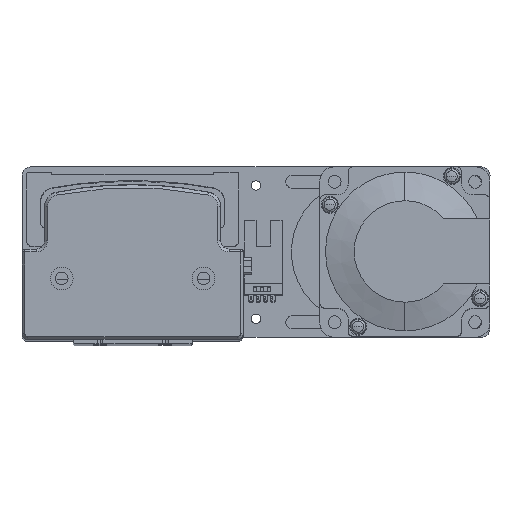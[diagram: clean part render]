
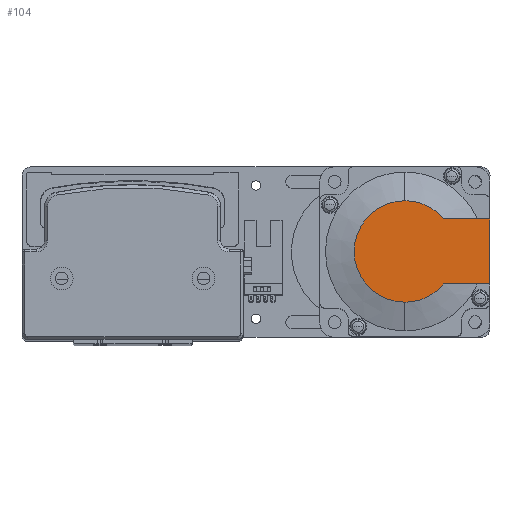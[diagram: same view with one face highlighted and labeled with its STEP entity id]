
A CAD part, top view. The second image highlights one B-rep face of the part: STEP entity #104.
In plain terms, the highlighted planar face has unit normal (0, 0, 1) as drawn and (-1, 0, 0) by its records, which use the part's own axes.
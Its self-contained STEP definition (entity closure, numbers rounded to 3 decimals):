
#104 = ADVANCED_FACE ( 'NONE', ( #40198 ), #28263, .T. ) ;
#647 = LINE ( 'NONE', #22108, #11565 ) ;
#1735 = DIRECTION ( 'NONE',  ( 0., 0., -1. ) ) ;
#2933 = DIRECTION ( 'NONE',  ( 0., 0., 1. ) ) ;
#2957 = LINE ( 'NONE', #32630, #21301 ) ;
#3065 = EDGE_CURVE ( 'NONE', #20482, #29009, #2957, .T. ) ;
#3129 = EDGE_CURVE ( 'NONE', #29009, #14020, #20157, .T. ) ;
#3145 = EDGE_CURVE ( 'NONE', #38413, #32427, #647, .T. ) ;
#3199 = EDGE_CURVE ( 'NONE', #20482, #38413, #36982, .T. ) ;
#3234 = EDGE_LOOP ( 'NONE', ( #38267, #32897, #35754, #10966, #33911, #39505 ) ) ;
#3596 = DIRECTION ( 'NONE',  ( -1., 0., 0. ) ) ;
#7434 = CARTESIAN_POINT ( 'NONE',  ( -118.5, 0., -17.881 ) ) ;
#9414 = AXIS2_PLACEMENT_3D ( 'NONE', #45095, #23663, #1735 ) ;
#10080 = AXIS2_PLACEMENT_3D ( 'NONE', #46260, #24834, #2933 ) ;
#10966 = ORIENTED_EDGE ( 'NONE', *, *, #14983, .T. ) ;
#11251 = CARTESIAN_POINT ( 'NONE',  ( -118.5, 0., 0. ) ) ;
#11407 = DIRECTION ( 'NONE',  ( 0., 0., 1. ) ) ;
#11565 = VECTOR ( 'NONE', #32927, 1000. ) ;
#12146 = AXIS2_PLACEMENT_3D ( 'NONE', #25467, #3596, #29054 ) ;
#13365 = CARTESIAN_POINT ( 'NONE',  ( -118.5, 13.735, -11.45 ) ) ;
#14020 = VERTEX_POINT ( 'NONE', #7434 ) ;
#14278 = EDGE_CURVE ( 'NONE', #14020, #19314, #40160, .T. ) ;
#14320 = AXIS2_PLACEMENT_3D ( 'NONE', #11251, #36537, #15012 ) ;
#14983 = EDGE_CURVE ( 'NONE', #19314, #32427, #34551, .T. ) ;
#15012 = DIRECTION ( 'NONE',  ( 0., 0., -1. ) ) ;
#15340 = CARTESIAN_POINT ( 'NONE',  ( -118.5, 30., 25. ) ) ;
#18355 = DIRECTION ( 'NONE',  ( 0., -1., 0. ) ) ;
#19314 = VERTEX_POINT ( 'NONE', #44185 ) ;
#20157 = CIRCLE ( 'NONE', #14320, 17.881 ) ;
#20482 = VERTEX_POINT ( 'NONE', #42203 ) ;
#21301 = VECTOR ( 'NONE', #18355, 1000. ) ;
#21665 = CARTESIAN_POINT ( 'NONE',  ( -118.5, 13.735, 11.45 ) ) ;
#22108 = CARTESIAN_POINT ( 'NONE',  ( -118.5, 0., 11.45 ) ) ;
#23663 = DIRECTION ( 'NONE',  ( -1., 0., 0. ) ) ;
#24834 = DIRECTION ( 'NONE',  ( -1., 0., 0. ) ) ;
#25467 = CARTESIAN_POINT ( 'NONE',  ( -118.5, 0., 0. ) ) ;
#26142 = CARTESIAN_POINT ( 'NONE',  ( -118.5, 30., 11.45 ) ) ;
#28263 = PLANE ( 'NONE',  #10080 ) ;
#29009 = VERTEX_POINT ( 'NONE', #13365 ) ;
#29054 = DIRECTION ( 'NONE',  ( 0., 0., -1. ) ) ;
#32427 = VERTEX_POINT ( 'NONE', #21665 ) ;
#32630 = CARTESIAN_POINT ( 'NONE',  ( -118.5, -8.941, -11.45 ) ) ;
#32897 = ORIENTED_EDGE ( 'NONE', *, *, #3129, .T. ) ;
#32927 = DIRECTION ( 'NONE',  ( 0., -1., 0. ) ) ;
#33911 = ORIENTED_EDGE ( 'NONE', *, *, #3145, .F. ) ;
#34551 = CIRCLE ( 'NONE', #9414, 17.881 ) ;
#35754 = ORIENTED_EDGE ( 'NONE', *, *, #14278, .T. ) ;
#36537 = DIRECTION ( 'NONE',  ( -1., 0., 0. ) ) ;
#36982 = LINE ( 'NONE', #15340, #46515 ) ;
#38267 = ORIENTED_EDGE ( 'NONE', *, *, #3065, .T. ) ;
#38413 = VERTEX_POINT ( 'NONE', #26142 ) ;
#39505 = ORIENTED_EDGE ( 'NONE', *, *, #3199, .F. ) ;
#40160 = CIRCLE ( 'NONE', #12146, 17.881 ) ;
#40198 = FACE_OUTER_BOUND ( 'NONE', #3234, .T. ) ;
#42203 = CARTESIAN_POINT ( 'NONE',  ( -118.5, 30., -11.45 ) ) ;
#44185 = CARTESIAN_POINT ( 'NONE',  ( -118.5, 0., 17.881 ) ) ;
#45095 = CARTESIAN_POINT ( 'NONE',  ( -118.5, 0., 0. ) ) ;
#46260 = CARTESIAN_POINT ( 'NONE',  ( -118.5, -8.941, 0. ) ) ;
#46515 = VECTOR ( 'NONE', #11407, 1000. ) ;
